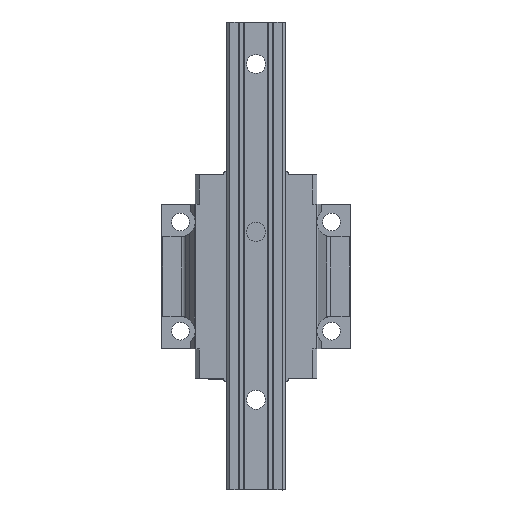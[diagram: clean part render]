
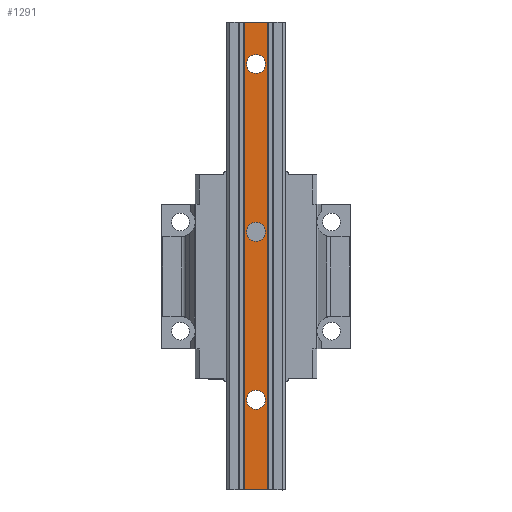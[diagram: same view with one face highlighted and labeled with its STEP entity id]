
A CAD part, front view. The second image highlights one B-rep face of the part: STEP entity #1291.
In plain terms, the highlighted planar face has unit normal (0, -1, 0).
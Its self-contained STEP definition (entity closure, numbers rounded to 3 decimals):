
#1291=ADVANCED_FACE('',(#3512,#3513,#3514,#3515),#1788,.F.);
#1788=PLANE('',#9543);
#2020=LINE('',#12445,#2711);
#2033=LINE('',#12478,#2724);
#2082=LINE('',#12610,#2773);
#2083=LINE('',#12624,#2774);
#2711=VECTOR('',#10244,1.);
#2724=VECTOR('',#10265,1.);
#2773=VECTOR('',#10398,1.);
#2774=VECTOR('',#10417,1.);
#3512=FACE_BOUND('',#3720,.T.);
#3513=FACE_BOUND('',#3721,.T.);
#3514=FACE_BOUND('',#3722,.T.);
#3515=FACE_BOUND('',#3723,.T.);
#3720=EDGE_LOOP('',(#4506,#4507,#4508,#4509));
#3721=EDGE_LOOP('',(#4510));
#3722=EDGE_LOOP('',(#4511));
#3723=EDGE_LOOP('',(#4512));
#4506=ORIENTED_EDGE('',*,*,#7912,.T.);
#4507=ORIENTED_EDGE('',*,*,#7990,.F.);
#4508=ORIENTED_EDGE('',*,*,#7896,.F.);
#4509=ORIENTED_EDGE('',*,*,#7985,.T.);
#4510=ORIENTED_EDGE('',*,*,#7991,.F.);
#4511=ORIENTED_EDGE('',*,*,#7987,.T.);
#4512=ORIENTED_EDGE('',*,*,#7989,.T.);
#6988=VERTEX_POINT('',#12444);
#6989=VERTEX_POINT('',#12446);
#7004=VERTEX_POINT('',#12477);
#7005=VERTEX_POINT('',#12479);
#7047=VERTEX_POINT('',#12616);
#7049=VERTEX_POINT('',#12622);
#7050=VERTEX_POINT('',#12626);
#7896=EDGE_CURVE('',#6988,#6989,#2020,.T.);
#7912=EDGE_CURVE('',#7005,#7004,#2033,.T.);
#7985=EDGE_CURVE('',#6988,#7005,#2082,.T.);
#7987=EDGE_CURVE('',#7047,#7047,#9210,.T.);
#7989=EDGE_CURVE('',#7049,#7049,#9212,.T.);
#7990=EDGE_CURVE('',#6989,#7004,#2083,.T.);
#7991=EDGE_CURVE('',#7050,#7050,#9213,.T.);
#9210=CIRCLE('',#9536,4.5);
#9212=CIRCLE('',#9540,4.5);
#9213=CIRCLE('',#9542,4.5);
#9536=AXIS2_PLACEMENT_3D('',#12615,#10405,#10406);
#9540=AXIS2_PLACEMENT_3D('',#12621,#10413,#10414);
#9542=AXIS2_PLACEMENT_3D('',#12625,#10418,#10419);
#9543=AXIS2_PLACEMENT_3D('',#12627,#10420,#10421);
#10244=DIRECTION('',(-1.,0.,0.));
#10265=DIRECTION('',(-1.,0.,0.));
#10398=DIRECTION('',(0.,0.,1.));
#10405=DIRECTION('',(0.,1.,0.));
#10406=DIRECTION('',(0.,0.,1.));
#10413=DIRECTION('',(0.,1.,0.));
#10414=DIRECTION('',(0.,0.,-1.));
#10417=DIRECTION('',(0.,0.,1.));
#10418=DIRECTION('',(0.,-1.,0.));
#10419=DIRECTION('',(0.,0.,-1.));
#10420=DIRECTION('',(0.,1.,0.));
#10421=DIRECTION('',(0.,0.,1.));
#12444=CARTESIAN_POINT('',(-3.91,-19.975,97.));
#12445=CARTESIAN_POINT('',(-22.311,-19.975,97.));
#12446=CARTESIAN_POINT('',(-14.909,-19.975,97.));
#12477=CARTESIAN_POINT('',(-14.909,-19.975,320.));
#12478=CARTESIAN_POINT('',(-22.311,-19.975,320.));
#12479=CARTESIAN_POINT('',(-3.91,-19.975,320.));
#12610=CARTESIAN_POINT('',(-3.91,-19.975,100.));
#12615=CARTESIAN_POINT('',(-9.41,-19.975,140.));
#12616=CARTESIAN_POINT('',(-9.41,-19.975,144.5));
#12621=CARTESIAN_POINT('',(-9.41,-19.975,220.));
#12622=CARTESIAN_POINT('',(-9.41,-19.975,215.5));
#12624=CARTESIAN_POINT('',(-14.909,-19.975,100.));
#12625=CARTESIAN_POINT('',(-9.41,-19.975,300.));
#12626=CARTESIAN_POINT('',(-9.41,-19.975,295.5));
#12627=CARTESIAN_POINT('',(-3.91,-19.975,100.));
